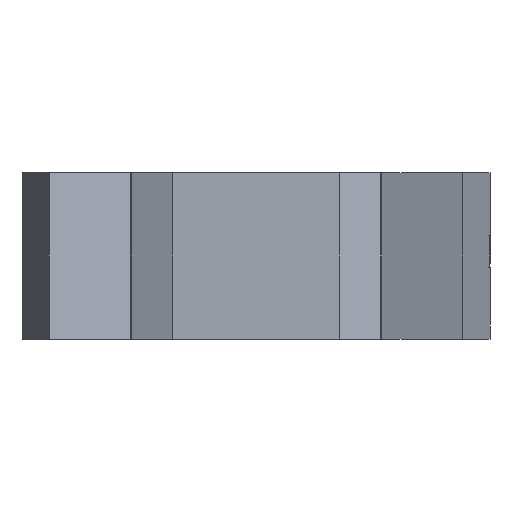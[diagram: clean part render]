
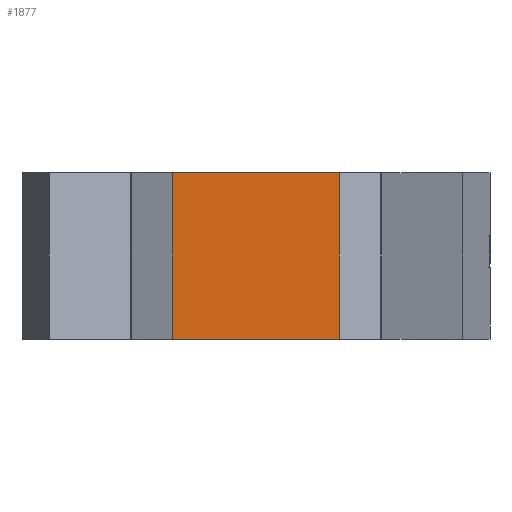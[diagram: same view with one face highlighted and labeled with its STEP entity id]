
A CAD part, left-side view. The second image highlights one B-rep face of the part: STEP entity #1877.
In plain terms, the highlighted planar face has unit normal (-1, 0, 0).
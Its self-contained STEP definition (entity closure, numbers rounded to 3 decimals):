
#50 = PLANE('',#51);
#51 = AXIS2_PLACEMENT_3D('',#52,#53,#54);
#52 = CARTESIAN_POINT('',(-11.,-3.,3.));
#53 = DIRECTION('',(0.,0.,1.));
#54 = DIRECTION('',(1.,0.,0.));
#498 = VERTEX_POINT('',#499);
#499 = CARTESIAN_POINT('',(-11.,3.,3.));
#513 = PLANE('',#514);
#514 = AXIS2_PLACEMENT_3D('',#515,#516,#517);
#515 = CARTESIAN_POINT('',(-11.,3.,-3.));
#516 = DIRECTION('',(0.,1.,0.));
#517 = DIRECTION('',(0.,0.,1.));
#525 = EDGE_CURVE('',#526,#498,#528,.T.);
#526 = VERTEX_POINT('',#527);
#527 = CARTESIAN_POINT('',(-11.,-3.,3.));
#528 = SURFACE_CURVE('',#529,(#533,#540),.PCURVE_S1.);
#529 = LINE('',#530,#531);
#530 = CARTESIAN_POINT('',(-11.,-3.,3.));
#531 = VECTOR('',#532,1.);
#532 = DIRECTION('',(0.,1.,0.));
#533 = PCURVE('',#50,#534);
#534 = DEFINITIONAL_REPRESENTATION('',(#535),#539);
#535 = LINE('',#536,#537);
#536 = CARTESIAN_POINT('',(0.,0.));
#537 = VECTOR('',#538,1.);
#538 = DIRECTION('',(0.,1.));
#539 = ( GEOMETRIC_REPRESENTATION_CONTEXT(2) 
PARAMETRIC_REPRESENTATION_CONTEXT() REPRESENTATION_CONTEXT('2D SPACE',''
  ) );
#540 = PCURVE('',#541,#546);
#541 = PLANE('',#542);
#542 = AXIS2_PLACEMENT_3D('',#543,#544,#545);
#543 = CARTESIAN_POINT('',(-11.,-3.,-3.));
#544 = DIRECTION('',(1.,0.,0.));
#545 = DIRECTION('',(0.,0.,1.));
#546 = DEFINITIONAL_REPRESENTATION('',(#547),#551);
#547 = LINE('',#548,#549);
#548 = CARTESIAN_POINT('',(6.,0.));
#549 = VECTOR('',#550,1.);
#550 = DIRECTION('',(0.,-1.));
#551 = ( GEOMETRIC_REPRESENTATION_CONTEXT(2) 
PARAMETRIC_REPRESENTATION_CONTEXT() REPRESENTATION_CONTEXT('2D SPACE',''
  ) );
#569 = PLANE('',#570);
#570 = AXIS2_PLACEMENT_3D('',#571,#572,#573);
#571 = CARTESIAN_POINT('',(-11.,-3.,-3.));
#572 = DIRECTION('',(0.,1.,0.));
#573 = DIRECTION('',(0.,0.,1.));
#1054 = PLANE('',#1055);
#1055 = AXIS2_PLACEMENT_3D('',#1056,#1057,#1058);
#1056 = CARTESIAN_POINT('',(-11.,-3.,-3.));
#1057 = DIRECTION('',(0.,0.,1.));
#1058 = DIRECTION('',(1.,0.,0.));
#1833 = VERTEX_POINT('',#1834);
#1834 = CARTESIAN_POINT('',(-11.,3.,-3.));
#1855 = EDGE_CURVE('',#1833,#498,#1856,.T.);
#1856 = SURFACE_CURVE('',#1857,(#1861,#1868),.PCURVE_S1.);
#1857 = LINE('',#1858,#1859);
#1858 = CARTESIAN_POINT('',(-11.,3.,-3.));
#1859 = VECTOR('',#1860,1.);
#1860 = DIRECTION('',(0.,0.,1.));
#1861 = PCURVE('',#513,#1862);
#1862 = DEFINITIONAL_REPRESENTATION('',(#1863),#1867);
#1863 = LINE('',#1864,#1865);
#1864 = CARTESIAN_POINT('',(0.,0.));
#1865 = VECTOR('',#1866,1.);
#1866 = DIRECTION('',(1.,0.));
#1867 = ( GEOMETRIC_REPRESENTATION_CONTEXT(2) 
PARAMETRIC_REPRESENTATION_CONTEXT() REPRESENTATION_CONTEXT('2D SPACE',''
  ) );
#1868 = PCURVE('',#541,#1869);
#1869 = DEFINITIONAL_REPRESENTATION('',(#1870),#1874);
#1870 = LINE('',#1871,#1872);
#1871 = CARTESIAN_POINT('',(0.,-6.));
#1872 = VECTOR('',#1873,1.);
#1873 = DIRECTION('',(1.,0.));
#1874 = ( GEOMETRIC_REPRESENTATION_CONTEXT(2) 
PARAMETRIC_REPRESENTATION_CONTEXT() REPRESENTATION_CONTEXT('2D SPACE',''
  ) );
#1877 = ADVANCED_FACE('',(#1878),#541,.F.);
#1878 = FACE_BOUND('',#1879,.F.);
#1879 = EDGE_LOOP('',(#1880,#1903,#1924,#1925));
#1880 = ORIENTED_EDGE('',*,*,#1881,.F.);
#1881 = EDGE_CURVE('',#1882,#526,#1884,.T.);
#1882 = VERTEX_POINT('',#1883);
#1883 = CARTESIAN_POINT('',(-11.,-3.,-3.));
#1884 = SURFACE_CURVE('',#1885,(#1889,#1896),.PCURVE_S1.);
#1885 = LINE('',#1886,#1887);
#1886 = CARTESIAN_POINT('',(-11.,-3.,-3.));
#1887 = VECTOR('',#1888,1.);
#1888 = DIRECTION('',(0.,0.,1.));
#1889 = PCURVE('',#541,#1890);
#1890 = DEFINITIONAL_REPRESENTATION('',(#1891),#1895);
#1891 = LINE('',#1892,#1893);
#1892 = CARTESIAN_POINT('',(0.,0.));
#1893 = VECTOR('',#1894,1.);
#1894 = DIRECTION('',(1.,0.));
#1895 = ( GEOMETRIC_REPRESENTATION_CONTEXT(2) 
PARAMETRIC_REPRESENTATION_CONTEXT() REPRESENTATION_CONTEXT('2D SPACE',''
  ) );
#1896 = PCURVE('',#569,#1897);
#1897 = DEFINITIONAL_REPRESENTATION('',(#1898),#1902);
#1898 = LINE('',#1899,#1900);
#1899 = CARTESIAN_POINT('',(0.,0.));
#1900 = VECTOR('',#1901,1.);
#1901 = DIRECTION('',(1.,0.));
#1902 = ( GEOMETRIC_REPRESENTATION_CONTEXT(2) 
PARAMETRIC_REPRESENTATION_CONTEXT() REPRESENTATION_CONTEXT('2D SPACE',''
  ) );
#1903 = ORIENTED_EDGE('',*,*,#1904,.T.);
#1904 = EDGE_CURVE('',#1882,#1833,#1905,.T.);
#1905 = SURFACE_CURVE('',#1906,(#1910,#1917),.PCURVE_S1.);
#1906 = LINE('',#1907,#1908);
#1907 = CARTESIAN_POINT('',(-11.,-3.,-3.));
#1908 = VECTOR('',#1909,1.);
#1909 = DIRECTION('',(0.,1.,0.));
#1910 = PCURVE('',#541,#1911);
#1911 = DEFINITIONAL_REPRESENTATION('',(#1912),#1916);
#1912 = LINE('',#1913,#1914);
#1913 = CARTESIAN_POINT('',(0.,0.));
#1914 = VECTOR('',#1915,1.);
#1915 = DIRECTION('',(0.,-1.));
#1916 = ( GEOMETRIC_REPRESENTATION_CONTEXT(2) 
PARAMETRIC_REPRESENTATION_CONTEXT() REPRESENTATION_CONTEXT('2D SPACE',''
  ) );
#1917 = PCURVE('',#1054,#1918);
#1918 = DEFINITIONAL_REPRESENTATION('',(#1919),#1923);
#1919 = LINE('',#1920,#1921);
#1920 = CARTESIAN_POINT('',(0.,0.));
#1921 = VECTOR('',#1922,1.);
#1922 = DIRECTION('',(0.,1.));
#1923 = ( GEOMETRIC_REPRESENTATION_CONTEXT(2) 
PARAMETRIC_REPRESENTATION_CONTEXT() REPRESENTATION_CONTEXT('2D SPACE',''
  ) );
#1924 = ORIENTED_EDGE('',*,*,#1855,.T.);
#1925 = ORIENTED_EDGE('',*,*,#525,.F.);
